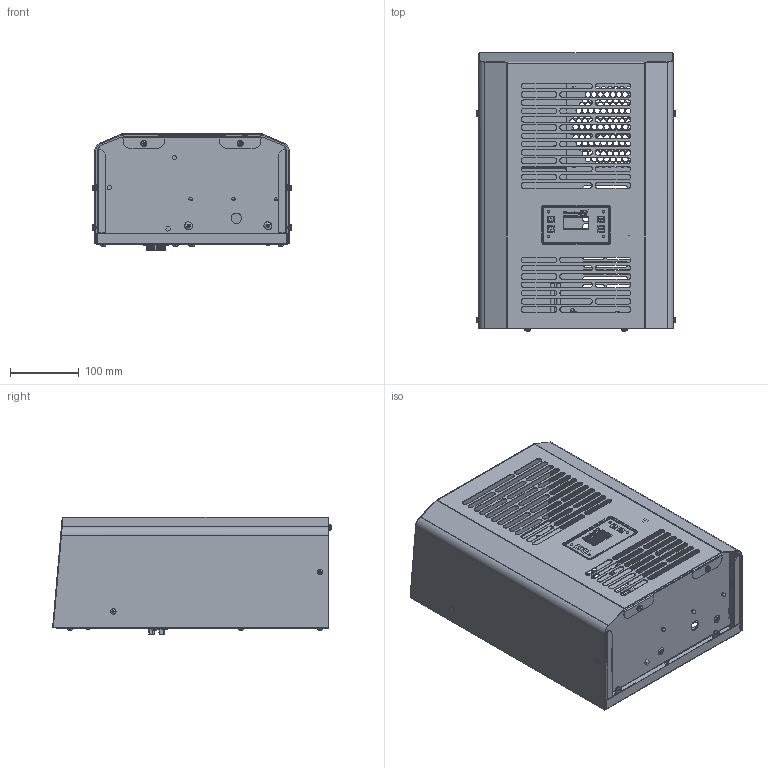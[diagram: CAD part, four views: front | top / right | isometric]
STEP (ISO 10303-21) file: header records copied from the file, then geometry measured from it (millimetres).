
FILE_DESCRIPTION (( 'STEP AP203' ), '1' );
FILE_NAME ('60057-101.STEP', '2020-07-16T03:10:50', ( '' ), ( '' ), 'SwSTEP 2.0', 'SolidWorks 2018', '' );
FILE_SCHEMA (( 'CONFIG_CONTROL_DESIGN' ));
Length unit declared in the file: millimetre
Products named in the file (61): 60057-201_Standard; 020102025  PT.LIKO VZ 3,5x10 Kopf ?5; 025500841 Wago 231-603_019-000_Standard; Blechschraube mit Linsenkopf und Kreuzschlitz - DIN 7981; 025500841 Wago 231-603_019-000; Federringe - DIN 127; 60057-206_Standard; 60057-010_602002047; Flachkopfschraube mit Kreutzschlitz - DIN EN ISO 7045; 60057-018; 60057-204_Standard; Blindniet; 025416705; Blindniet_020140037 4,0x9,5 Al-St; Blechschraube mit Linsenkopf und Kreuzschlitz - DIN 7981_020100035 Schraube 4.2x9.5 St zn ohne Spitze  DIN 7981; 60057-205_600720122; 60057-014; 30302-021; Flachkopfschraube mit Kreutzschlitz - DIN EN ISO 7045_ISO 7045 - M4 x 10 - Z --- 10S; 60057-010; 60057-018_Standard; Flachkopfschraube mit Kreutzschlitz - DIN EN ISO 7045_ISO 7045 - M4 x 10 - Z --- 10N; 60057-202_Standard; Blindniet_020140201  4.0x11 K12 Maxi; Federringe - DIN 127_020200115  Federring B4,0 A2  DIN 127; 60057-101; 60057-019_Standard; 30348-201_mounting plate1mm(（standard）; 025416705_025416705; 60057-019
Assembly tree (46 placements, depth 4):
  020102025  PT.LIKO VZ 3,5x10 Kopf ?5
  Blechschraube mit Linsenkopf und Kreuzschlitz - DIN 7981
  Blechschraube mit Linsenkopf und Kreuzschlitz - DIN 7981
  025500841 Wago 231-603_019-000
  Federringe - DIN 127
Bounding box: 289.84 x 404.32 x 170 mm (x, y, z)
Volume: 490703.8 mm3; surface area: 926062.2 mm2
Topology: 51 solids, 51 shells, 3818 faces, 10261 edges, 6664 vertices
Faces by surface type: plane 2060, cylinder 1086, bspline 322, cone 228, sphere 74, torus 48
Entity records: 122960 total; most frequent: CARTESIAN_POINT 36011, ORIENTED_EDGE 17248, DIRECTION 15937, EDGE_CURVE 8624, VERTEX_POINT 5638, VECTOR 5565, LINE 5565, AXIS2_PLACEMENT_3D 5186
